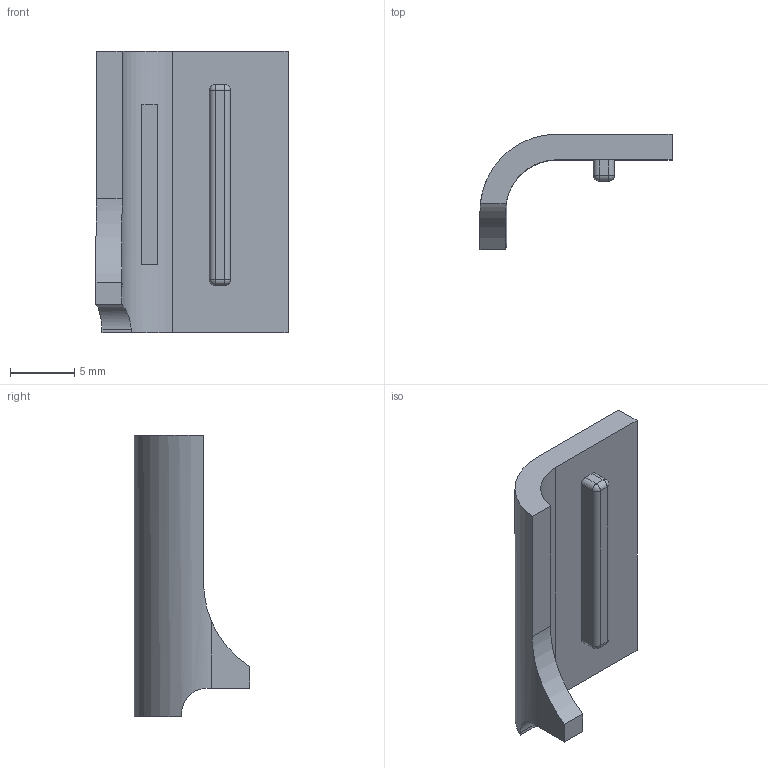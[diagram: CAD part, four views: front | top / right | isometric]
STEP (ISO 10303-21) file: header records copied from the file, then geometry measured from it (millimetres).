
FILE_DESCRIPTION(('Open CASCADE Model'),'2;1');
FILE_NAME('rear_service_cover_PA12','2026-09-06T11:35:14',('Author'),( 'Open CASCADE'),'Open CASCADE STEP processor 7.8','build123d', 'Unknown');
FILE_SCHEMA(('AUTOMOTIVE_DESIGN { 1 0 10303 214 1 1 1 1 }'));
Length unit declared in the file: millimetre
Products named in the file (1): rear_service_cover_PA12
Bounding box: 15 x 9 x 22 mm (x, y, z)
Volume: 772.2 mm3; surface area: 953 mm2
Topology: 1 solids, 1 shells, 41 faces, 101 edges, 60 vertices
Faces by surface type: plane 21, cylinder 15, sphere 5
Entity records: 2806 total; most frequent: CARTESIAN_POINT 930, DIRECTION 320, ORIENTED_EDGE 194, PCURVE 194, DEFINITIONAL_REPRESENTATION 194, LINE 170, VECTOR 170, EDGE_CURVE 97
